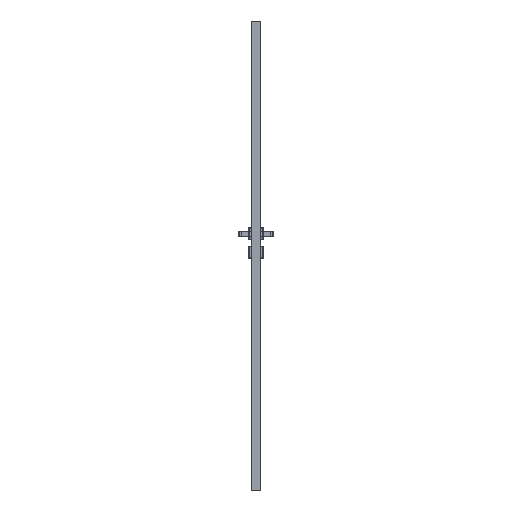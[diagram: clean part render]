
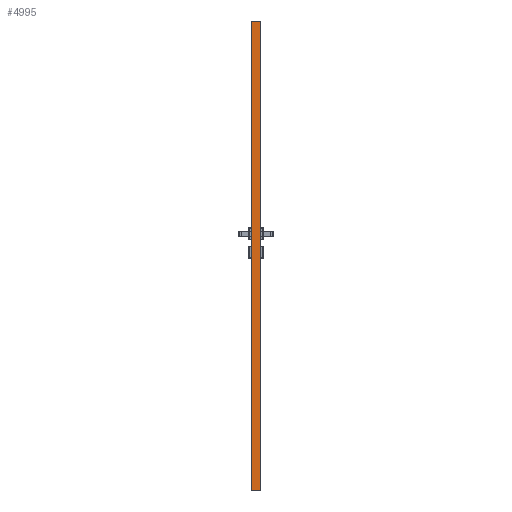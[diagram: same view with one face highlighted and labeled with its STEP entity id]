
A CAD part, left-side view. The second image highlights one B-rep face of the part: STEP entity #4995.
In plain terms, the highlighted planar face has unit normal (-1, 0, 0).
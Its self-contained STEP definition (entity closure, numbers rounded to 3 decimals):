
#4995=ADVANCED_FACE('',(#8629),#7493,.F.);
#7493=PLANE('',#43958);
#8629=FACE_OUTER_BOUND('',#11121,.T.);
#11121=EDGE_LOOP('',(#14063,#14064,#14065,#14066,#14067,#14068));
#14063=ORIENTED_EDGE('',*,*,#30754,.T.);
#14064=ORIENTED_EDGE('',*,*,#30766,.T.);
#14065=ORIENTED_EDGE('',*,*,#30775,.T.);
#14066=ORIENTED_EDGE('',*,*,#30776,.T.);
#14067=ORIENTED_EDGE('',*,*,#30725,.F.);
#14068=ORIENTED_EDGE('',*,*,#30777,.F.);
#26649=VERTEX_POINT('',#61593);
#26650=VERTEX_POINT('',#61595);
#26676=VERTEX_POINT('',#61654);
#26678=VERTEX_POINT('',#61658);
#26688=VERTEX_POINT('',#61681);
#26694=VERTEX_POINT('',#61699);
#30725=EDGE_CURVE('',#26649,#26650,#37085,.T.);
#30754=EDGE_CURVE('',#26676,#26678,#37114,.T.);
#30766=EDGE_CURVE('',#26678,#26688,#37121,.T.);
#30775=EDGE_CURVE('',#26688,#26694,#37127,.T.);
#30776=EDGE_CURVE('',#26694,#26650,#37128,.T.);
#30777=EDGE_CURVE('',#26676,#26649,#37129,.T.);
#37085=LINE('',#61594,#40495);
#37114=LINE('',#61659,#40524);
#37121=LINE('',#61682,#40531);
#37127=LINE('',#61698,#40537);
#37128=LINE('',#61700,#40538);
#37129=LINE('',#61701,#40539);
#40495=VECTOR('',#48594,1.);
#40524=VECTOR('',#48637,1.);
#40531=VECTOR('',#48656,1.);
#40537=VECTOR('',#48672,1.);
#40538=VECTOR('',#48673,1.);
#40539=VECTOR('',#48674,1.);
#43958=AXIS2_PLACEMENT_3D('',#61702,#48675,#48676);
#48594=DIRECTION('',(0.,0.,-1.));
#48637=DIRECTION('',(0.,0.,-1.));
#48656=DIRECTION('',(0.,-0.707,-0.707));
#48672=DIRECTION('',(0.,-1.,0.));
#48673=DIRECTION('',(0.,-0.707,0.707));
#48674=DIRECTION('',(0.,-1.,0.));
#48675=DIRECTION('',(1.,0.,0.));
#48676=DIRECTION('',(0.,1.,0.));
#61593=CARTESIAN_POINT('',(-309.,-39.3,2017.));
#61594=CARTESIAN_POINT('',(-309.,-39.3,2017.));
#61595=CARTESIAN_POINT('',(-309.,-39.3,2.));
#61654=CARTESIAN_POINT('',(-309.,0.,2017.));
#61658=CARTESIAN_POINT('',(-309.,0.,2.));
#61659=CARTESIAN_POINT('',(-309.,0.,2017.));
#61681=CARTESIAN_POINT('',(-309.,-2.,0.));
#61682=CARTESIAN_POINT('',(-309.,0.,2.));
#61698=CARTESIAN_POINT('',(-309.,0.,0.));
#61699=CARTESIAN_POINT('',(-309.,-37.3,0.));
#61700=CARTESIAN_POINT('',(-309.,-39.3,2.));
#61701=CARTESIAN_POINT('',(-309.,0.,2017.));
#61702=CARTESIAN_POINT('',(-309.,0.,2017.));
